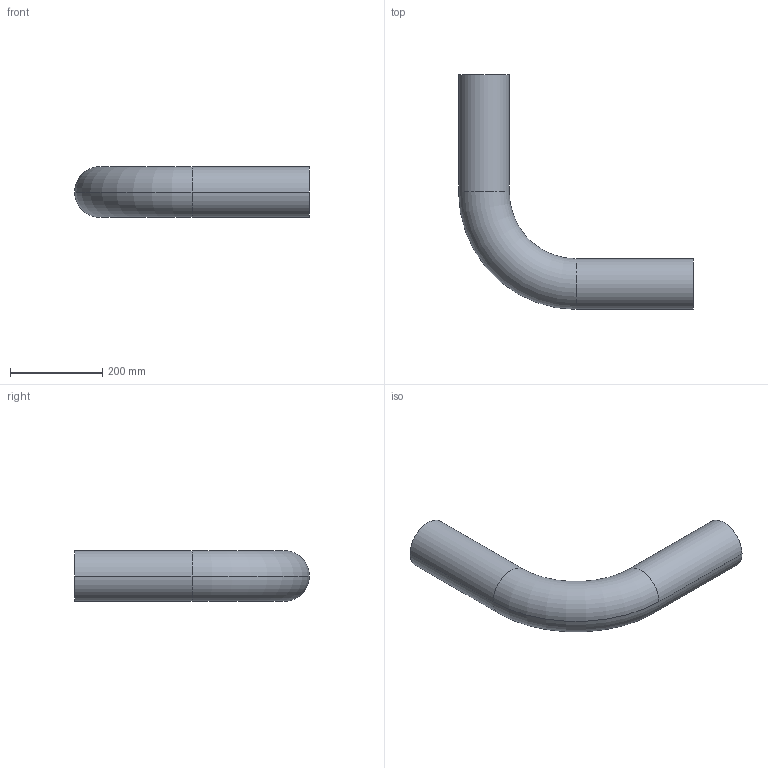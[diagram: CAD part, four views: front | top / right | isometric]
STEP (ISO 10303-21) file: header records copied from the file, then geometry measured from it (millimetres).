
FILE_DESCRIPTION (( 'STEP AP214' ), '1' );
FILE_NAME ('KP_3-110FC.step', '2012-12-14T08:50:45', ( '' ), ( '' ), 'SwSTEP 2.0', 'SolidWorks 2012', '' );
FILE_SCHEMA (( 'AUTOMOTIVE_DESIGN' ));
Length unit declared in the file: millimetre
Products named in the file (1): KP_3-110FC
Bounding box: 510 x 510 x 110 mm (x, y, z)
Volume: 2705038.2 mm3; surface area: 521809.7 mm2
Topology: 1 solids, 1 shells, 14 faces, 28 edges, 16 vertices
Faces by surface type: cylinder 8, torus 4, plane 2
Entity records: 406 total; most frequent: DIRECTION 78, CARTESIAN_POINT 59, ORIENTED_EDGE 56, AXIS2_PLACEMENT_3D 35, EDGE_CURVE 28, CIRCLE 20, VERTEX_POINT 16, EDGE_LOOP 16
